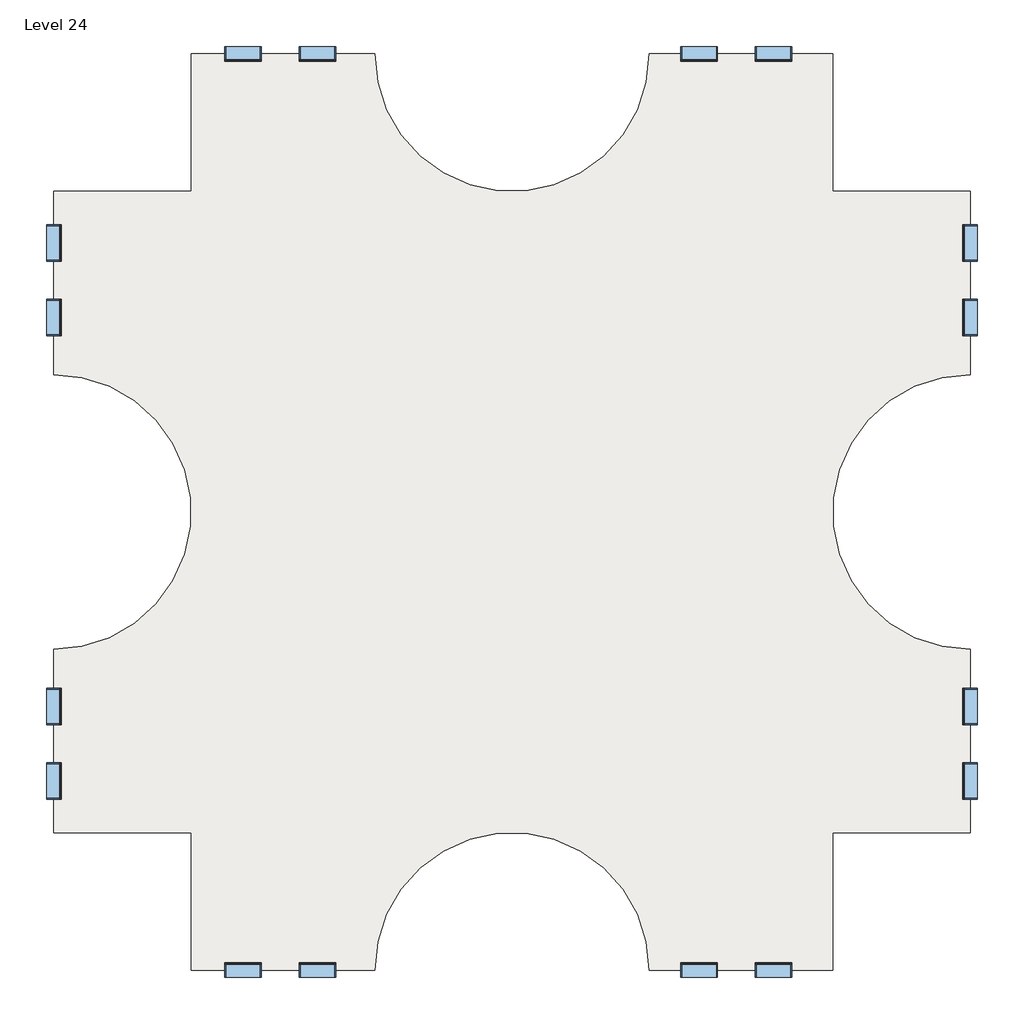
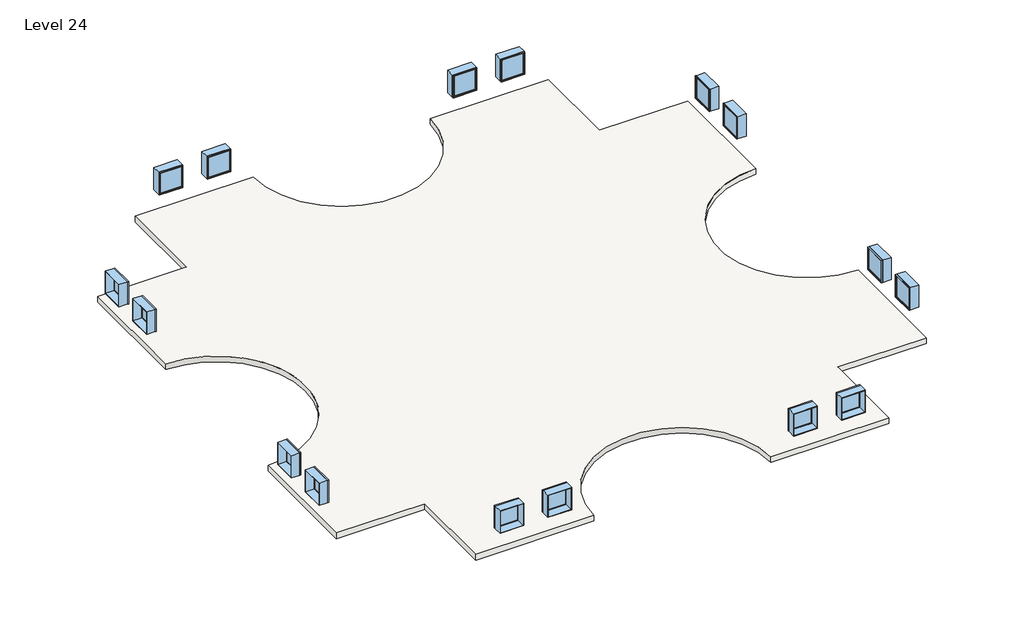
# One storey: 16 windows, 2 slabs.
"""IFC4 building model written with IfcOpenShell, lengths in millimetres."""

import ifcopenshell
import ifcopenshell.guid

model = None  # the IFC model being written
_history = None  # IfcOwnerHistory: only IFC2X3 demands one
_inside = {}  # id of a spatial element -> (the spatial element, [elements in it])
_under = {}  # id of a project, library or spatial element -> (it, [spatial elements below it])
_declared = {}  # id of a project -> (the project, [libraries it declares])
_typed = {}  # id of a type object -> (the type object, [elements of that type])
_made_of = {}  # id of a material, layer set ... -> (it, [elements and type objects made of it])


def new_model(schema):
    """Start an empty IFC model of exactly this schema.

    Asked for "IFC4X3", IfcOpenShell would pick the latest addendum, in which some entities
    have other attributes; the version numbers below select the first issue.
    IFC2X3 requires an IfcOwnerHistory on every rooted entity: one is made here for all.
    """
    global model, _history
    if schema == "IFC4X3":
        model = ifcopenshell.file(schema_version=(4, 3, 0, 0))
    else:
        model = ifcopenshell.file(schema=schema)
    _inside.clear()
    _under.clear()
    _declared.clear()
    _typed.clear()
    _made_of.clear()
    _history = None
    if model.schema == "IFC2X3":
        org = make("IfcOrganization", Name="unknown")
        user = make(
            "IfcPersonAndOrganization",
            ThePerson=make("IfcPerson", FamilyName="unknown"),
            TheOrganization=org,
        )
        app = make(
            "IfcApplication",
            ApplicationDeveloper=org,
            Version="unknown",
            ApplicationFullName="unknown",
            ApplicationIdentifier="unknown",
        )
        _history = make(
            "IfcOwnerHistory",
            OwningUser=user,
            OwningApplication=app,
            ChangeAction="ADDED",
            CreationDate=0,
        )
    return model


def make(cls, **values):
    """One entity of the class cls with the attributes given. An attribute that is None is left unset."""
    return model.create_entity(
        cls, **{name: value for name, value in values.items() if value is not None}
    )


def rooted(cls, **values):
    """An entity with a GlobalId (a new one), such as an element, a storey or a relation."""
    return make(cls, GlobalId=ifcopenshell.guid.new(), OwnerHistory=_history, **values)


def si_unit(unit_type, name, prefix=None):
    """IfcSIUnit, for example si_unit("LENGTHUNIT", "METRE", prefix="MILLI")."""
    return make("IfcSIUnit", UnitType=unit_type, Prefix=prefix, Name=name)


def assignment(units):
    """IfcUnitAssignment: the units of a project."""
    return None if units is None else make("IfcUnitAssignment", Units=units)


def point(xyz):
    """IfcCartesianPoint."""
    return None if xyz is None else make("IfcCartesianPoint", Coordinates=xyz)


def direction(xyz):
    """IfcDirection."""
    return None if xyz is None else make("IfcDirection", DirectionRatios=xyz)


def frame(location, z_axis=None, x_axis=None):
    """IfcAxis2Placement3D, a coordinate frame: its origin and axes. An axis left out is left unset."""
    return make(
        "IfcAxis2Placement3D",
        Location=point(location),
        Axis=direction(z_axis),
        RefDirection=direction(x_axis),
    )


def frame_2d(location, x_axis=None):
    """IfcAxis2Placement2D, a coordinate frame in the plane: its origin and x axis."""
    return make(
        "IfcAxis2Placement2D", Location=point(location), RefDirection=direction(x_axis)
    )


def origin():
    """The frame at (0, 0, 0) with its axes left unset."""
    return frame((0.0, 0.0, 0.0))


def place(relative_to, where):
    """IfcLocalPlacement: puts the frame where relative to a parent placement (None: the world)."""
    return make(
        "IfcLocalPlacement", PlacementRelTo=relative_to, RelativePlacement=where
    )


def context(
    kind, dimensions, precision=None, world=None, true_north=None, identifier=None
):
    """IfcGeometricRepresentationContext, for example the 3D "Model" context."""
    return make(
        "IfcGeometricRepresentationContext",
        ContextIdentifier=identifier,
        ContextType=kind,
        CoordinateSpaceDimension=dimensions,
        Precision=precision,
        WorldCoordinateSystem=world,
        TrueNorth=true_north,
    )


def project(units=None, contexts=None):
    """IfcProject with its units and contexts."""
    return rooted(
        "IfcProject",
        Name="project",
        RepresentationContexts=contexts,
        UnitsInContext=assignment(units),
    )


def spatial(cls, under=None, at=None, **own):
    """A site, building, storey or space (cls), placed at a placement, below another one or the project."""
    s = rooted(cls, ObjectPlacement=at, **own)
    if under is not None:
        _under.setdefault(under.id(), (under, []))[1].append(s)
    return s


def polyline(points):
    """IfcPolyline through the points."""
    return make("IfcPolyline", Points=[point(p) for p in points])


def circle_curve(where, radius):
    """IfcCircle in the frame where."""
    return make("IfcCircle", Position=where, Radius=radius)


def trimmed(basis, trim1, trim2, sense, master):
    """IfcTrimmedCurve: the piece of a basis curve between two trims."""
    return make(
        "IfcTrimmedCurve",
        BasisCurve=basis,
        Trim1=trim1,
        Trim2=trim2,
        SenseAgreement=sense,
        MasterRepresentation=master,
    )


def segment(curve, same_sense, transition):
    """IfcCompositeCurveSegment."""
    return make(
        "IfcCompositeCurveSegment",
        Transition=transition,
        SameSense=same_sense,
        ParentCurve=curve,
    )


def composite_curve(segments, self_intersect=None):
    """IfcCompositeCurve: segments joined end to end."""
    return make("IfcCompositeCurve", Segments=segments, SelfIntersect=self_intersect)


def outline(outer, holes=None, kind="AREA"):
    """IfcArbitraryClosedProfileDef: a profile drawn as a closed curve; with holes, ...WithVoids."""
    if holes is None:
        return make("IfcArbitraryClosedProfileDef", ProfileType=kind, OuterCurve=outer)
    return make(
        "IfcArbitraryProfileDefWithVoids",
        ProfileType=kind,
        OuterCurve=outer,
        InnerCurves=holes,
    )


def extrude(swept, where, along, depth):
    """IfcExtrudedAreaSolid: the profile swept, set in the frame where, extruded along a direction by depth."""
    return make(
        "IfcExtrudedAreaSolid",
        SweptArea=swept,
        Position=where,
        ExtrudedDirection=direction(along),
        Depth=depth,
    )


def shape(context_of_items, identifier, shape_type, items):
    """IfcShapeRepresentation: the items that make up one representation, for example the "Body"."""
    return make(
        "IfcShapeRepresentation",
        ContextOfItems=context_of_items,
        RepresentationIdentifier=identifier,
        RepresentationType=shape_type,
        Items=items,
    )


def source(mapping_origin, context_of_items, identifier, shape_type, items):
    """IfcRepresentationMap: a shape defined once, which mapped items show again and again."""
    return make(
        "IfcRepresentationMap",
        MappingOrigin=mapping_origin,
        MappedRepresentation=shape(context_of_items, identifier, shape_type, items),
    )


def transform(
    local_origin,
    x_axis=None,
    y_axis=None,
    z_axis=None,
    scale=None,
    scale2=None,
    scale3=None,
    uniform=True,
):
    """IfcCartesianTransformationOperator3D, or its non-uniform kind. x_axis, y_axis, z_axis: its Axis1, 2, 3."""
    if uniform:
        return make(
            "IfcCartesianTransformationOperator3D",
            Axis1=direction(x_axis),
            Axis2=direction(y_axis),
            LocalOrigin=point(local_origin),
            Scale=scale,
            Axis3=direction(z_axis),
        )
    return make(
        "IfcCartesianTransformationOperator3DnonUniform",
        Axis1=direction(x_axis),
        Axis2=direction(y_axis),
        LocalOrigin=point(local_origin),
        Scale=scale,
        Axis3=direction(z_axis),
        Scale2=scale2,
        Scale3=scale3,
    )


def mapped(mapping_source, mapping_target):
    """IfcMappedItem: shows the shape of a source again, moved by a transform."""
    return make(
        "IfcMappedItem", MappingSource=mapping_source, MappingTarget=mapping_target
    )


def made_of(thing, what):
    """Note that an element or type object is made of a material, layer set ...; save() writes the relation."""
    if what is not None:
        _made_of.setdefault(what.id(), (what, []))[1].append(thing)
    return thing


def element(
    cls,
    number,
    at=None,
    inside=None,
    cuts=None,
    type_object=None,
    material=None,
    context=None,
    identifier="Body",
    shape_type=None,
    held_by="IfcProductDefinitionShape",
    body=None,
    shapes=None,
    **own,
):
    """One element of the class cls, such as IfcWall. Its Tag is "e" and its number.

    at: its placement. inside: the storey or other place that contains it. cuts: it is an
    opening in that element (IfcRelVoidsElement). A single representation is given by context,
    identifier, shape_type and body (its items); several are given by shapes. held_by: the class
    of the entity that holds the representations. save() writes the other relations.
    """
    e = rooted(cls, Tag="e%d" % number, ObjectPlacement=at, **own)
    if body is not None:
        shapes = [shape(context, identifier, shape_type, body)]
    if shapes is not None:
        e.Representation = make(held_by, Representations=shapes)
    if inside is not None:
        _inside.setdefault(inside.id(), (inside, []))[1].append(e)
    if cuts is not None:
        rooted(
            "IfcRelVoidsElement", RelatingBuildingElement=cuts, RelatedOpeningElement=e
        )
    if type_object is not None:
        _typed.setdefault(type_object.id(), (type_object, []))[1].append(e)
    return made_of(e, material)


def aggregate(whole, parts):
    """IfcRelAggregates: a whole, such as a stair, and the parts it consists of."""
    return rooted("IfcRelAggregates", RelatingObject=whole, RelatedObjects=parts)


def save(model, path):
    """Write the relations noted so far, then the file.

    IfcRelAggregates (storeys below a building ...), IfcRelContainedInSpatialStructure (elements
    in a storey), IfcRelDefinesByType, IfcRelAssociatesMaterial and IfcRelDeclares: one each for
    every whole, place, type object, material and project.
    """
    for whole, parts in _under.values():
        aggregate(whole, parts)
    for where, things in _inside.values():
        rooted(
            "IfcRelContainedInSpatialStructure",
            RelatedElements=things,
            RelatingStructure=where,
        )
    for kind, things in _typed.values():
        rooted("IfcRelDefinesByType", RelatedObjects=things, RelatingType=kind)
    for what, things in _made_of.values():
        rooted("IfcRelAssociatesMaterial", RelatedObjects=things, RelatingMaterial=what)
    for by, libraries in _declared.values():
        rooted("IfcRelDeclares", RelatingContext=by, RelatedDefinitions=libraries)
    model.write(path)


def window_d0035ecf(model_context):
    return source(origin(), model_context, "Body", "SweptSolid", [
        extrude(outline(polyline([(508.0, 200.025), (-584.2, 200.025), (-584.2, 212.725), (508.0, 212.725), (508.0, 200.025)])), frame((0.0, 0.0, 977.9), z_axis=(0.0, 0.0, 1.0), x_axis=(1.0, 0.0, 0.0)), (0.0, 0.0, 1.0), 1092.2),
        extrude(outline(polyline([(2114.55, -628.65), (933.45, -628.65), (933.45, 552.45), (2114.55, 552.45), (2114.55, -628.65)]), holes=[polyline([(2070.1, -584.2), (2070.1, 508.0), (977.9, 508.0), (977.9, -584.2), (2070.1, -584.2)])]), frame((0.0, 184.15, 0.0), z_axis=(0.0, 1.0, 0.0), x_axis=(0.0, 0.0, 1.0)), (0.0, 0.0, 1.0), 44.45),
        extrude(outline(polyline([(2133.6, -647.7), (914.4, -647.7), (914.4, 571.5), (2133.6, 571.5), (2133.6, -647.7)]), holes=[polyline([(2101.85, -615.95), (2101.85, 539.75), (946.15, 539.75), (946.15, -615.95), (2101.85, -615.95)])]), frame((0.0, -247.65, 0.0), z_axis=(0.0, 1.0, 0.0), x_axis=(0.0, 0.0, 1.0)), (0.0, 0.0, 1.0), 431.8),
        extrude(outline(polyline([(2133.6, 571.5), (2133.6, -647.7), (914.4, -647.7), (914.4, 571.5), (2133.6, 571.5)]), holes=[polyline([(2114.55, 552.45), (933.45, 552.45), (933.45, -628.65), (2114.55, -628.65), (2114.55, 552.45)])]), frame((0.0, 184.15, 0.0), z_axis=(0.0, 1.0, 0.0), x_axis=(0.0, 0.0, 1.0)), (0.0, 0.0, 1.0), 63.5),
    ])


def window_d434eb62(model_context):
    return source(origin(), model_context, "Body", "SweptSolid", [
        extrude(outline(polyline([(508.0, -200.025), (508.0, -212.725), (-584.2, -212.725), (-584.2, -200.025), (508.0, -200.025)])), frame((0.0, 0.0, 977.9), z_axis=(0.0, 0.0, 1.0), x_axis=(1.0, 0.0, 0.0)), (0.0, 0.0, 1.0), 1092.2),
        extrude(outline(polyline([(2114.55, -628.65), (933.45, -628.65), (933.45, 552.45), (2114.55, 552.45), (2114.55, -628.65)]), holes=[polyline([(2070.1, -584.2), (2070.1, 508.0), (977.9, 508.0), (977.9, -584.2), (2070.1, -584.2)])]), frame((0.0, -228.6, 0.0), z_axis=(0.0, 1.0, 0.0), x_axis=(0.0, 0.0, 1.0)), (0.0, 0.0, 1.0), 44.45),
        extrude(outline(polyline([(2133.6, -647.7), (914.4, -647.7), (914.4, 571.5), (2133.6, 571.5), (2133.6, -647.7)]), holes=[polyline([(2101.85, -615.95), (2101.85, 539.75), (946.15, 539.75), (946.15, -615.95), (2101.85, -615.95)])]), frame((0.0, -184.15, 0.0), z_axis=(0.0, 1.0, 0.0), x_axis=(0.0, 0.0, 1.0)), (0.0, 0.0, 1.0), 431.8),
        extrude(outline(polyline([(2133.6, 571.5), (2133.6, -647.7), (914.4, -647.7), (914.4, 571.5), (2133.6, 571.5)]), holes=[polyline([(2114.55, 552.45), (933.45, 552.45), (933.45, -628.65), (2114.55, -628.65), (2114.55, 552.45)])]), frame((0.0, -247.65, 0.0), z_axis=(0.0, 1.0, 0.0), x_axis=(0.0, 0.0, 1.0)), (0.0, 0.0, 1.0), 63.5),
    ])


model = new_model("IFC4")

# Units and contexts
model_context = context("Model", 3, world=origin())
ifc_project = project(units=[si_unit("LENGTHUNIT", "METRE", prefix="MILLI")], contexts=[model_context])

# Site, building, storey
site = spatial("IfcSite", under=ifc_project)
building = spatial("IfcBuilding", under=site)
storey = spatial("IfcBuildingStorey", under=building, Name="Level 24", Elevation=70104.0)

# Slabs
placement = place(None, origin())
element("IfcSlab", 1, ObjectType="Generic - 12\"", at=placement, inside=storey, context=model_context, shape_type="SweptSolid", body=[
    extrude(outline(composite_curve([segment(polyline([(-7150.3629456, 4479.6634547), (-7150.3629456, 9051.6634547), (-1054.3629456, 9051.6634547)]), True, "CONTINUOUS"), segment(trimmed(circle_curve(frame_2d((3517.6370544, 9051.6634547)), 4572.0), [point((-1054.3629456, 9051.6634547))], [point((8089.6370544, 9051.6634547))], True, "CARTESIAN"), True, "CONTINUOUS"), segment(polyline([(8089.6370544, 9051.6634547), (14185.6370544, 9051.6634547), (14185.6370544, 4479.6634547), (18757.6370544, 4479.6634547), (18757.6370544, -1616.3365453)]), True, "CONTINUOUS"), segment(trimmed(circle_curve(frame_2d((18757.6370544, -6188.3365453)), 4572.0), [point((18757.6370544, -1616.3365453))], [point((18757.6370544, -10760.3365453))], True, "CARTESIAN"), True, "CONTINUOUS"), segment(polyline([(18757.6370544, -10760.3365453), (18757.6370544, -16856.3365453), (14185.6370544, -16856.3365453), (14185.6370544, -21428.3365453), (8089.6370544, -21428.3365453)]), True, "CONTINUOUS"), segment(trimmed(circle_curve(frame_2d((3517.6370544, -21428.3365453)), 4572.0), [point((8089.6370544, -21428.3365453))], [point((-1054.3629456, -21428.3365453))], True, "CARTESIAN"), True, "CONTINUOUS"), segment(polyline([(-1054.3629456, -21428.3365453), (-7150.3629456, -21428.3365453), (-7150.3629456, -16856.3365453), (-11722.3629456, -16856.3365453), (-11722.3629456, -10760.3365453)]), True, "CONTINUOUS"), segment(trimmed(circle_curve(frame_2d((-11722.3629456, -6188.3365453)), 4572.0), [point((-11722.3629456, -10760.3365453))], [point((-11722.3629456, -1616.3365453))], True, "CARTESIAN"), True, "CONTINUOUS"), segment(polyline([(-11722.3629456, -1616.3365453), (-11722.3629456, 4479.6634547), (-7150.3629456, 4479.6634547)]), True, "CONTINUOUS")], self_intersect=False)), frame((0.0, 0.0, 69799.2), z_axis=(0.0, 0.0, 1.0), x_axis=(1.0, 0.0, 0.0)), (0.0, 0.0, 1.0), 304.8),
])
element("IfcSlab", 2, ObjectType="Generic - 12\"", at=placement, inside=storey, context=model_context, shape_type="SweptSolid", body=[
    extrude(outline(composite_curve([segment(polyline([(-7150.3629456, 4479.6634547), (-7150.3629456, 9051.6634547), (-1054.3629456, 9051.6634547)]), True, "CONTINUOUS"), segment(trimmed(circle_curve(frame_2d((3517.6370544, 9051.6634547)), 4572.0), [point((-1054.3629456, 9051.6634547))], [point((8089.6370544, 9051.6634547))], True, "CARTESIAN"), True, "CONTINUOUS"), segment(polyline([(8089.6370544, 9051.6634547), (14185.6370544, 9051.6634547), (14185.6370544, 4479.6634547), (18757.6370544, 4479.6634547), (18757.6370544, -1616.3365453)]), True, "CONTINUOUS"), segment(trimmed(circle_curve(frame_2d((18757.6370544, -6188.3365453)), 4572.0), [point((18757.6370544, -1616.3365453))], [point((18757.6370544, -10760.3365453))], True, "CARTESIAN"), True, "CONTINUOUS"), segment(polyline([(18757.6370544, -10760.3365453), (18757.6370544, -16856.3365453), (14185.6370544, -16856.3365453), (14185.6370544, -21428.3365453), (8089.6370544, -21428.3365453)]), True, "CONTINUOUS"), segment(trimmed(circle_curve(frame_2d((3517.6370544, -21428.3365453)), 4572.0), [point((8089.6370544, -21428.3365453))], [point((-1054.3629456, -21428.3365453))], True, "CARTESIAN"), True, "CONTINUOUS"), segment(polyline([(-1054.3629456, -21428.3365453), (-7150.3629456, -21428.3365453), (-7150.3629456, -16856.3365453), (-11722.3629456, -16856.3365453), (-11722.3629456, -10760.3365453)]), True, "CONTINUOUS"), segment(trimmed(circle_curve(frame_2d((-11722.3629456, -6188.3365453)), 4572.0), [point((-11722.3629456, -10760.3365453))], [point((-11722.3629456, -1616.3365453))], True, "CARTESIAN"), True, "CONTINUOUS"), segment(polyline([(-11722.3629456, -1616.3365453), (-11722.3629456, 4479.6634547), (-7150.3629456, 4479.6634547)]), True, "CONTINUOUS")], self_intersect=False)), frame((0.0, 0.0, 69799.2), z_axis=(0.0, 0.0, 1.0), x_axis=(1.0, 0.0, 0.0)), (0.0, 0.0, 1.0), 304.8),
])

# Windows
window_shape = window_d0035ecf(model_context)
element("IfcWindow", 3, ObjectType="Fixed : 48\" x 48\"", at=placement, inside=storey, context=model_context, shape_type="MappedRepresentation", body=[
    mapped(window_shape, transform((-11719.1879456, 247.3884547, 70104.0), x_axis=(0.0, -1.0, 0.0), y_axis=(1.0, 0.0, 0.0), z_axis=(0.0, 0.0, 1.0))),
])
element("IfcWindow", 4, ObjectType="Fixed : 48\" x 48\"", at=placement, inside=storey, context=model_context, shape_type="MappedRepresentation", body=[
    mapped(window_shape, transform((-5469.1993281, 9048.4884547, 70104.0), x_axis=(-1.0, 0.0, 0.0), y_axis=(0.0, -1.0, 0.0), z_axis=(0.0, 0.0, 1.0))),
])
element("IfcWindow", 5, ObjectType="Fixed : 48\" x 48\"", at=placement, inside=storey, context=model_context, shape_type="MappedRepresentation", body=[
    mapped(window_shape, transform((-11719.1879456, -15175.1729277, 70104.0), x_axis=(0.0, -1.0, 0.0), y_axis=(1.0, 0.0, 0.0), z_axis=(0.0, 0.0, 1.0))),
])
element("IfcWindow", 6, ObjectType="Fixed : 48\" x 48\"", at=placement, inside=storey, context=model_context, shape_type="MappedRepresentation", body=[
    mapped(window_shape, transform((-2918.0879456, -21425.1615453, 70104.0), x_axis=(1.0, 0.0, 0.0), y_axis=(0.0, 1.0, 0.0), z_axis=(0.0, 0.0, 1.0))),
])
element("IfcWindow", 7, ObjectType="Fixed : 48\" x 48\"", at=placement, inside=storey, context=model_context, shape_type="MappedRepresentation", body=[
    mapped(window_shape, transform((18754.4620544, 2798.4998372, 70104.0), x_axis=(0.0, 1.0, 0.0), y_axis=(-1.0, 0.0, 0.0), z_axis=(0.0, 0.0, 1.0))),
])
element("IfcWindow", 8, ObjectType="Fixed : 48\" x 48\"", at=placement, inside=storey, context=model_context, shape_type="MappedRepresentation", body=[
    mapped(window_shape, transform((9705.7120544, 9048.4884547, 70104.0), x_axis=(-1.0, 0.0, 0.0), y_axis=(0.0, -1.0, 0.0), z_axis=(0.0, 0.0, 1.0))),
])
element("IfcWindow", 9, ObjectType="Fixed : 48\" x 48\"", at=placement, inside=storey, context=model_context, shape_type="MappedRepresentation", body=[
    mapped(window_shape, transform((18754.4620544, -12624.0615453, 70104.0), x_axis=(0.0, 1.0, 0.0), y_axis=(-1.0, 0.0, 0.0), z_axis=(0.0, 0.0, 1.0))),
])
element("IfcWindow", 10, ObjectType="Fixed : 48\" x 48\"", at=placement, inside=storey, context=model_context, shape_type="MappedRepresentation", body=[
    mapped(window_shape, transform((12256.8234368, -21425.1615453, 70104.0), x_axis=(1.0, 0.0, 0.0), y_axis=(0.0, 1.0, 0.0), z_axis=(0.0, 0.0, 1.0))),
])
window_2_shape = window_d434eb62(model_context)
element("IfcWindow", 11, ObjectType="Fixed : 48\" x 48\"", at=placement, inside=storey, context=model_context, shape_type="MappedRepresentation", body=[
    mapped(window_2_shape, transform((-11719.1879456, 2798.4998372, 70104.0), x_axis=(0.0, 1.0, 0.0), y_axis=(-1.0, 0.0, 0.0), z_axis=(0.0, 0.0, 1.0))),
])
element("IfcWindow", 12, ObjectType="Fixed : 48\" x 48\"", at=placement, inside=storey, context=model_context, shape_type="MappedRepresentation", body=[
    mapped(window_2_shape, transform((-2918.0879456, 9048.4884547, 70104.0), x_axis=(1.0, 0.0, 0.0), y_axis=(0.0, 1.0, 0.0), z_axis=(0.0, 0.0, 1.0))),
])
element("IfcWindow", 13, ObjectType="Fixed : 48\" x 48\"", at=placement, inside=storey, context=model_context, shape_type="MappedRepresentation", body=[
    mapped(window_2_shape, transform((-11719.1879456, -12624.0615453, 70104.0), x_axis=(0.0, 1.0, 0.0), y_axis=(-1.0, 0.0, 0.0), z_axis=(0.0, 0.0, 1.0))),
])
element("IfcWindow", 14, ObjectType="Fixed : 48\" x 48\"", at=placement, inside=storey, context=model_context, shape_type="MappedRepresentation", body=[
    mapped(window_2_shape, transform((-5469.1993281, -21425.1615453, 70104.0), x_axis=(-1.0, 0.0, 0.0), y_axis=(0.0, -1.0, 0.0), z_axis=(0.0, 0.0, 1.0))),
])
element("IfcWindow", 15, ObjectType="Fixed : 48\" x 48\"", at=placement, inside=storey, context=model_context, shape_type="MappedRepresentation", body=[
    mapped(window_2_shape, transform((18754.4620544, 247.3884547, 70104.0), x_axis=(0.0, -1.0, 0.0), y_axis=(1.0, 0.0, 0.0), z_axis=(0.0, 0.0, 1.0))),
])
element("IfcWindow", 16, ObjectType="Fixed : 48\" x 48\"", at=placement, inside=storey, context=model_context, shape_type="MappedRepresentation", body=[
    mapped(window_2_shape, transform((12256.8234368, 9048.4884547, 70104.0), x_axis=(1.0, 0.0, 0.0), y_axis=(0.0, 1.0, 0.0), z_axis=(0.0, 0.0, 1.0))),
])
element("IfcWindow", 17, ObjectType="Fixed : 48\" x 48\"", at=placement, inside=storey, context=model_context, shape_type="MappedRepresentation", body=[
    mapped(window_2_shape, transform((18754.4620544, -15175.1729277, 70104.0), x_axis=(0.0, -1.0, 0.0), y_axis=(1.0, 0.0, 0.0), z_axis=(0.0, 0.0, 1.0))),
])
element("IfcWindow", 18, ObjectType="Fixed : 48\" x 48\"", at=placement, inside=storey, context=model_context, shape_type="MappedRepresentation", body=[
    mapped(window_2_shape, transform((9705.7120544, -21425.1615453, 70104.0), x_axis=(-1.0, 0.0, 0.0), y_axis=(0.0, -1.0, 0.0), z_axis=(0.0, 0.0, 1.0))),
])

save(model, "model.ifc")
